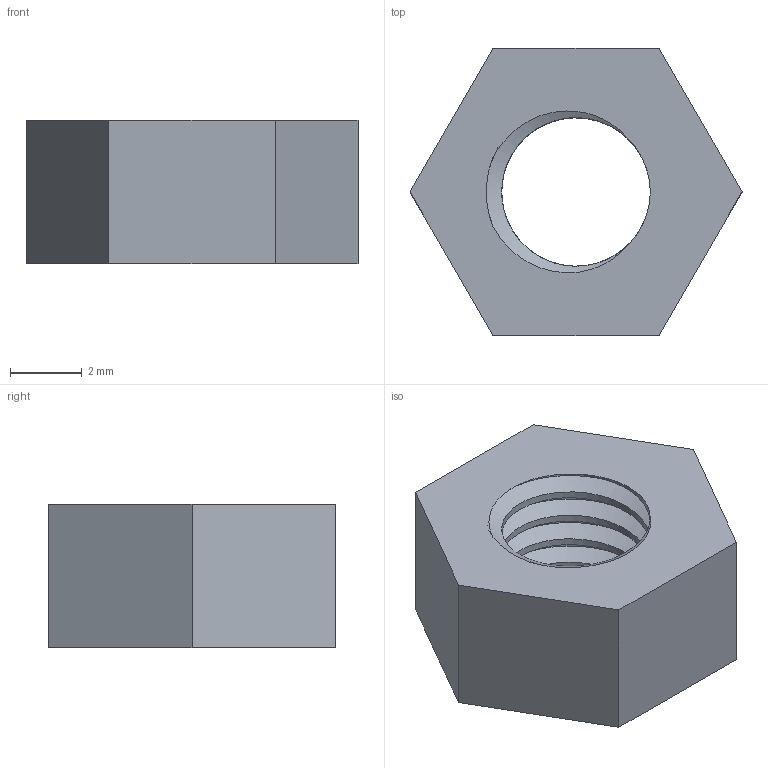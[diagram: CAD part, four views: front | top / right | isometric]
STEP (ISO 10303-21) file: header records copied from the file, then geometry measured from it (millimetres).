
FILE_DESCRIPTION(('Open CASCADE Model'),'2;1');
FILE_NAME('Open CASCADE Shape Model','2026-11-25T12:51:47',('Author'),( 'Open CASCADE'),'Open CASCADE STEP processor 8.0','Open CASCADE 8.0' ,'Unknown');
FILE_SCHEMA(('AP242_MANAGED_MODEL_BASED_3D_ENGINEERING_MIM_LF {1 0 10303 442 1 1 4 }' ));
Length unit declared in the file: millimetre
Products named in the file (1): Hand-built nut
Bounding box: 9.24 x 8 x 4 mm (x, y, z)
Volume: 157.4 mm3; surface area: 282.2 mm2
Topology: 1 solids, 1 shells, 18 faces, 48 edges, 32 vertices
Faces by surface type: plane 8, cylinder 7, bspline 3
Full cylindrical faces by diameter (mm): 4.134 x5
Entity records: 5944 total; most frequent: CARTESIAN_POINT 5061, DIRECTION 122, ORIENTED_EDGE 96, PCURVE 96, DEFINITIONAL_REPRESENTATION 96, LINE 78, VECTOR 78, B_SPLINE_CURVE_WITH_KNOTS 58
